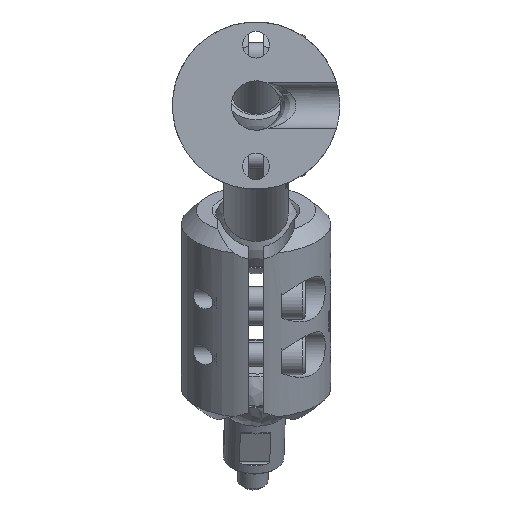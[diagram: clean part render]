
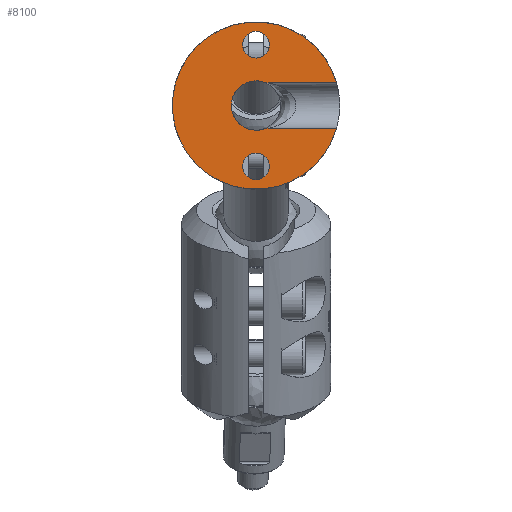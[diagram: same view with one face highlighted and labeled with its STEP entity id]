
A CAD part, left-side view. The second image highlights one B-rep face of the part: STEP entity #8100.
In plain terms, the highlighted planar face has unit normal (-1, 0, 0) as drawn and (0, -1, 0) by its records, which use the part's own axes.
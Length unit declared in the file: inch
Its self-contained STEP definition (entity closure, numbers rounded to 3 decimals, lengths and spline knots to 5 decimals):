
#645 = DIRECTION ( 'NONE',  ( 0., -1., 0. ) ) ;
#1372 = CIRCLE ( 'NONE', #13448, 0.10938 ) ;
#2269 = CARTESIAN_POINT ( 'NONE',  ( 0.66144, 0., 0.1875 ) ) ;
#2946 = CARTESIAN_POINT ( 'NONE',  ( 0.10005, 0., 0.1875 ) ) ;
#4405 = CIRCLE ( 'NONE', #40489, 0.125 ) ;
#4507 = VECTOR ( 'NONE', #18030, 39.37008 ) ;
#5005 = VERTEX_POINT ( 'NONE', #2946 ) ;
#5116 = EDGE_LOOP ( 'NONE', ( #37952 ) ) ;
#5203 = CARTESIAN_POINT ( 'NONE',  ( 0.6875, 0., 0.1875 ) ) ;
#6650 = CARTESIAN_POINT ( 'NONE',  ( 0., 0., 0.5 ) ) ;
#7922 = DIRECTION ( 'NONE',  ( -1., 0., 0. ) ) ;
#8100 = ADVANCED_FACE ( 'NONE', ( #30765, #21375, #38296 ), #37876, .T. ) ;
#8683 = EDGE_CURVE ( 'NONE', #31131, #5005, #26977, .T. ) ;
#9167 = ORIENTED_EDGE ( 'NONE', *, *, #22584, .F. ) ;
#9484 = VERTEX_POINT ( 'NONE', #22664 ) ;
#10009 = CIRCLE ( 'NONE', #22044, 0.20313 ) ;
#10627 = DIRECTION ( 'NONE',  ( 1., 0., 0. ) ) ;
#10885 = EDGE_CURVE ( 'NONE', #30888, #5005, #41055, .T. ) ;
#11369 = EDGE_LOOP ( 'NONE', ( #9167 ) ) ;
#11391 = DIRECTION ( 'NONE',  ( 0., 0., 1. ) ) ;
#13448 = AXIS2_PLACEMENT_3D ( 'NONE', #6650, #22367, #25074 ) ;
#14181 = EDGE_CURVE ( 'NONE', #26579, #18134, #4405, .T. ) ;
#14289 = ORIENTED_EDGE ( 'NONE', *, *, #21076, .T. ) ;
#14534 = VERTEX_POINT ( 'NONE', #21426 ) ;
#14918 = CARTESIAN_POINT ( 'NONE',  ( 0.10005, 0., -0.1875 ) ) ;
#15205 = VECTOR ( 'NONE', #7922, 39.37008 ) ;
#15317 = EDGE_LOOP ( 'NONE', ( #24017, #37248, #28987, #14289, #23340, #28680 ) ) ;
#15719 = DIRECTION ( 'NONE',  ( 0., -1., 0. ) ) ;
#18030 = DIRECTION ( 'NONE',  ( 1., 0., 0. ) ) ;
#18077 = DIRECTION ( 'NONE',  ( 0., 0., -1. ) ) ;
#18134 = VERTEX_POINT ( 'NONE', #28508 ) ;
#18281 = CARTESIAN_POINT ( 'NONE',  ( 0., 0., 0. ) ) ;
#20107 = DIRECTION ( 'NONE',  ( 0., -1., 0. ) ) ;
#20174 = CARTESIAN_POINT ( 'NONE',  ( 0., 0., -0.5 ) ) ;
#21076 = EDGE_CURVE ( 'NONE', #31131, #37386, #41388, .T. ) ;
#21375 = FACE_BOUND ( 'NONE', #11369, .T. ) ;
#21426 = CARTESIAN_POINT ( 'NONE',  ( 0., 0., 0.39062 ) ) ;
#21897 = AXIS2_PLACEMENT_3D ( 'NONE', #22194, #15719, #10627 ) ;
#22044 = AXIS2_PLACEMENT_3D ( 'NONE', #18281, #30594, #11391 ) ;
#22194 = CARTESIAN_POINT ( 'NONE',  ( 0., 0., 0. ) ) ;
#22367 = DIRECTION ( 'NONE',  ( 0., -1., 0. ) ) ;
#22584 = EDGE_CURVE ( 'NONE', #14534, #14534, #1372, .T. ) ;
#22602 = CARTESIAN_POINT ( 'NONE',  ( 0.06193, 0., 0.19345 ) ) ;
#22664 = CARTESIAN_POINT ( 'NONE',  ( 0., 0., -0.60938 ) ) ;
#23240 = CARTESIAN_POINT ( 'NONE',  ( 0., 0., 0. ) ) ;
#23340 = ORIENTED_EDGE ( 'NONE', *, *, #29705, .F. ) ;
#23685 = AXIS2_PLACEMENT_3D ( 'NONE', #29327, #645, #26624 ) ;
#24017 = ORIENTED_EDGE ( 'NONE', *, *, #37270, .T. ) ;
#25074 = DIRECTION ( 'NONE',  ( 0., 0., -1. ) ) ;
#26579 = VERTEX_POINT ( 'NONE', #14918 ) ;
#26624 = DIRECTION ( 'NONE',  ( 1., 0., 0. ) ) ;
#26977 = LINE ( 'NONE', #5203, #15205 ) ;
#27348 = AXIS2_PLACEMENT_3D ( 'NONE', #23240, #20107, #35983 ) ;
#27678 = DIRECTION ( 'NONE',  ( 0., -1., 0. ) ) ;
#28493 = CARTESIAN_POINT ( 'NONE',  ( 0.66144, 0., -0.1875 ) ) ;
#28508 = CARTESIAN_POINT ( 'NONE',  ( 0.06193, 0., -0.19345 ) ) ;
#28680 = ORIENTED_EDGE ( 'NONE', *, *, #14181, .T. ) ;
#28987 = ORIENTED_EDGE ( 'NONE', *, *, #8683, .F. ) ;
#29327 = CARTESIAN_POINT ( 'NONE',  ( 0.10005, 0., 0.3125 ) ) ;
#29705 = EDGE_CURVE ( 'NONE', #26579, #37386, #37860, .T. ) ;
#30594 = DIRECTION ( 'NONE',  ( 0., 1., 0. ) ) ;
#30765 = FACE_OUTER_BOUND ( 'NONE', #15317, .T. ) ;
#30888 = VERTEX_POINT ( 'NONE', #22602 ) ;
#31131 = VERTEX_POINT ( 'NONE', #2269 ) ;
#35983 = DIRECTION ( 'NONE',  ( 1., 0., 0. ) ) ;
#37165 = EDGE_CURVE ( 'NONE', #9484, #9484, #39395, .T. ) ;
#37248 = ORIENTED_EDGE ( 'NONE', *, *, #10885, .T. ) ;
#37270 = EDGE_CURVE ( 'NONE', #18134, #30888, #10009, .T. ) ;
#37386 = VERTEX_POINT ( 'NONE', #28493 ) ;
#37653 = CARTESIAN_POINT ( 'NONE',  ( 0.6875, 0., -0.1875 ) ) ;
#37860 = LINE ( 'NONE', #37653, #4507 ) ;
#37876 = PLANE ( 'NONE',  #21897 ) ;
#37952 = ORIENTED_EDGE ( 'NONE', *, *, #37165, .F. ) ;
#38084 = CARTESIAN_POINT ( 'NONE',  ( 0.10005, 0., -0.3125 ) ) ;
#38287 = DIRECTION ( 'NONE',  ( 1., 0., 0. ) ) ;
#38296 = FACE_BOUND ( 'NONE', #5116, .T. ) ;
#38488 = DIRECTION ( 'NONE',  ( 0., -1., 0. ) ) ;
#39395 = CIRCLE ( 'NONE', #39424, 0.10938 ) ;
#39424 = AXIS2_PLACEMENT_3D ( 'NONE', #20174, #27678, #18077 ) ;
#40489 = AXIS2_PLACEMENT_3D ( 'NONE', #38084, #38488, #38287 ) ;
#41055 = CIRCLE ( 'NONE', #23685, 0.125 ) ;
#41388 = CIRCLE ( 'NONE', #27348, 0.6875 ) ;
